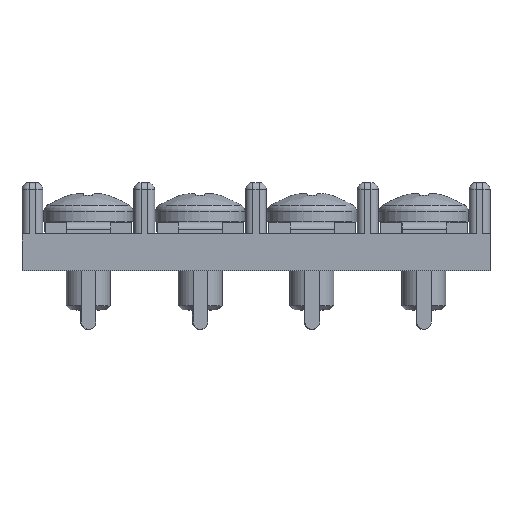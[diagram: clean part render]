
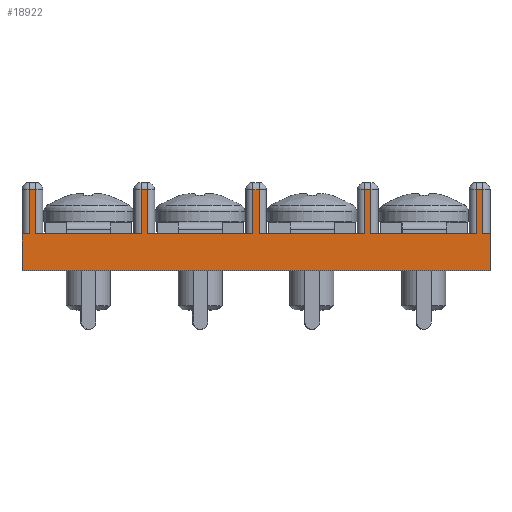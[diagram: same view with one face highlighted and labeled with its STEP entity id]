
A CAD part, top view. The second image highlights one B-rep face of the part: STEP entity #18922.
In plain terms, the highlighted planar face has unit normal (0, 0, 1).
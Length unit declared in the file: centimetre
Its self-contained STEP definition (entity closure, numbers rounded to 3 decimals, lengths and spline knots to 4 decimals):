
#941=PLANE('',#31524);
#1591=VECTOR('',#20011,1.);
#1594=VECTOR('',#20038,1.);
#1597=VECTOR('',#20047,1.);
#1605=VECTOR('',#20066,1.);
#1606=VECTOR('',#20068,1.);
#1714=VECTOR('',#20331,1.);
#1726=VECTOR('',#20362,1.);
#1728=VECTOR('',#20388,1.);
#1730=VECTOR('',#20396,1.);
#1865=VECTOR('',#20718,1.);
#1867=VECTOR('',#20744,1.);
#1869=VECTOR('',#20749,1.);
#1870=VECTOR('',#20750,1.);
#1871=VECTOR('',#20751,1.);
#1872=VECTOR('',#20752,1.);
#1873=VECTOR('',#20753,1.);
#1874=VECTOR('',#20754,1.);
#1875=VECTOR('',#20755,1.);
#1876=VECTOR('',#20756,1.);
#1877=VECTOR('',#20757,1.);
#1878=VECTOR('',#20758,1.);
#1879=VECTOR('',#20759,1.);
#1880=VECTOR('',#20760,1.);
#3695=LINE('',#23555,#1591);
#3698=LINE('',#23572,#1594);
#3701=LINE('',#23582,#1597);
#3709=LINE('',#23602,#1605);
#3710=LINE('',#23605,#1606);
#3818=LINE('',#23968,#1714);
#3830=LINE('',#24006,#1726);
#3832=LINE('',#24020,#1728);
#3834=LINE('',#24028,#1730);
#3969=LINE('',#24463,#1865);
#3971=LINE('',#24477,#1867);
#3973=LINE('',#24483,#1869);
#3974=LINE('',#24484,#1870);
#3975=LINE('',#24486,#1871);
#3976=LINE('',#24488,#1872);
#3977=LINE('',#24490,#1873);
#3978=LINE('',#24492,#1874);
#3979=LINE('',#24494,#1875);
#3980=LINE('',#24496,#1876);
#3981=LINE('',#24498,#1877);
#3982=LINE('',#24500,#1878);
#3983=LINE('',#24502,#1879);
#3984=LINE('',#24503,#1880);
#5801=VERTEX_POINT('',#23550);
#5803=VERTEX_POINT('',#23554);
#5806=VERTEX_POINT('',#23573);
#5809=VERTEX_POINT('',#23581);
#5815=VERTEX_POINT('',#23603);
#5816=VERTEX_POINT('',#23606);
#5925=VERTEX_POINT('',#23954);
#5932=VERTEX_POINT('',#23967);
#5946=VERTEX_POINT('',#24001);
#5948=VERTEX_POINT('',#24005);
#5949=VERTEX_POINT('',#24021);
#5951=VERTEX_POINT('',#24027);
#6091=VERTEX_POINT('',#24458);
#6093=VERTEX_POINT('',#24462);
#6094=VERTEX_POINT('',#24478);
#6096=VERTEX_POINT('',#24485);
#6097=VERTEX_POINT('',#24487);
#6098=VERTEX_POINT('',#24489);
#6099=VERTEX_POINT('',#24491);
#6100=VERTEX_POINT('',#24493);
#6101=VERTEX_POINT('',#24495);
#6102=VERTEX_POINT('',#24497);
#6103=VERTEX_POINT('',#24499);
#6104=VERTEX_POINT('',#24501);
#7889=EDGE_CURVE('',#5803,#5801,#3695,.T.);
#7898=EDGE_CURVE('',#5806,#5801,#3698,.T.);
#7903=EDGE_CURVE('',#5809,#5803,#3701,.T.);
#7913=EDGE_CURVE('',#5815,#5806,#3709,.T.);
#7915=EDGE_CURVE('',#5816,#5815,#3710,.T.);
#8078=EDGE_CURVE('',#5925,#5932,#3818,.T.);
#8098=EDGE_CURVE('',#5948,#5946,#3830,.T.);
#8106=EDGE_CURVE('',#5949,#5946,#3832,.T.);
#8110=EDGE_CURVE('',#5951,#5948,#3834,.T.);
#8308=EDGE_CURVE('',#6093,#6091,#3969,.T.);
#8316=EDGE_CURVE('',#6094,#6091,#3971,.T.);
#8319=EDGE_CURVE('',#5925,#6093,#3973,.T.);
#8320=EDGE_CURVE('',#5932,#6096,#3974,.T.);
#8321=EDGE_CURVE('',#6097,#6096,#3975,.T.);
#8322=EDGE_CURVE('',#6098,#6097,#3976,.T.);
#8323=EDGE_CURVE('',#6098,#6099,#3977,.T.);
#8324=EDGE_CURVE('',#6100,#6099,#3978,.T.);
#8325=EDGE_CURVE('',#6100,#5816,#3979,.T.);
#8326=EDGE_CURVE('',#5809,#6101,#3709,.T.);
#8327=EDGE_CURVE('',#6101,#6102,#3980,.T.);
#8328=EDGE_CURVE('',#6103,#6102,#3981,.T.);
#8329=EDGE_CURVE('',#6104,#6103,#3982,.T.);
#8330=EDGE_CURVE('',#6104,#5949,#3983,.T.);
#8331=EDGE_CURVE('',#5951,#6094,#3984,.T.);
#11474=ORIENTED_EDGE('',*,*,#8308,.F.);
#11475=ORIENTED_EDGE('',*,*,#8319,.F.);
#11476=ORIENTED_EDGE('',*,*,#8078,.T.);
#11477=ORIENTED_EDGE('',*,*,#8320,.T.);
#11478=ORIENTED_EDGE('',*,*,#8321,.F.);
#11479=ORIENTED_EDGE('',*,*,#8322,.F.);
#11480=ORIENTED_EDGE('',*,*,#8323,.T.);
#11481=ORIENTED_EDGE('',*,*,#8324,.F.);
#11482=ORIENTED_EDGE('',*,*,#8325,.T.);
#11483=ORIENTED_EDGE('',*,*,#7915,.T.);
#11484=ORIENTED_EDGE('',*,*,#7913,.T.);
#11485=ORIENTED_EDGE('',*,*,#7898,.T.);
#11486=ORIENTED_EDGE('',*,*,#7889,.F.);
#11487=ORIENTED_EDGE('',*,*,#7903,.F.);
#11488=ORIENTED_EDGE('',*,*,#8326,.T.);
#11489=ORIENTED_EDGE('',*,*,#8327,.T.);
#11490=ORIENTED_EDGE('',*,*,#8328,.F.);
#11491=ORIENTED_EDGE('',*,*,#8329,.F.);
#11492=ORIENTED_EDGE('',*,*,#8330,.T.);
#11493=ORIENTED_EDGE('',*,*,#8106,.T.);
#11494=ORIENTED_EDGE('',*,*,#8098,.F.);
#11495=ORIENTED_EDGE('',*,*,#8110,.F.);
#11496=ORIENTED_EDGE('',*,*,#8331,.T.);
#11497=ORIENTED_EDGE('',*,*,#8316,.T.);
#16522=EDGE_LOOP('',(#11474,#11475,#11476,#11477,#11478,#11479,#11480,#11481,
#11482,#11483,#11484,#11485,#11486,#11487,#11488,#11489,#11490,#11491,#11492,
#11493,#11494,#11495,#11496,#11497));
#17732=FACE_BOUND('',#16522,.T.);
#18922=ADVANCED_FACE('',(#17732),#941,.T.);
#20011=DIRECTION('',(1.,0.,0.));
#20038=DIRECTION('',(0.,1.,0.));
#20047=DIRECTION('',(0.,1.,0.));
#20066=DIRECTION('',(-1.,0.,0.));
#20068=DIRECTION('',(0.,1.,0.));
#20331=DIRECTION('',(-1.,0.,0.));
#20362=DIRECTION('',(1.,0.,0.));
#20388=DIRECTION('',(0.,1.,0.));
#20396=DIRECTION('',(0.,1.,0.));
#20718=DIRECTION('',(1.,0.,0.));
#20744=DIRECTION('',(0.,1.,0.));
#20748=DIRECTION('',(0.,0.,1.));
#20749=DIRECTION('',(0.,1.,0.));
#20750=DIRECTION('',(0.,1.,0.));
#20751=DIRECTION('',(1.,0.,0.));
#20752=DIRECTION('',(0.,1.,0.));
#20753=DIRECTION('',(-1.,0.,0.));
#20754=DIRECTION('',(0.,1.,0.));
#20755=DIRECTION('',(1.,0.,0.));
#20756=DIRECTION('',(0.,1.,0.));
#20757=DIRECTION('',(1.,0.,0.));
#20758=DIRECTION('',(0.,1.,0.));
#20759=DIRECTION('',(-1.,0.,0.));
#20760=DIRECTION('',(-1.,0.,0.));
#23550=CARTESIAN_POINT('',(2.378,0.55,0.45));
#23554=CARTESIAN_POINT('',(2.336,0.55,0.45));
#23555=CARTESIAN_POINT('',(2.357,0.55,0.45));
#23572=CARTESIAN_POINT('',(2.378,0.25,0.45));
#23573=CARTESIAN_POINT('',(2.378,0.25,0.45));
#23581=CARTESIAN_POINT('',(2.336,0.25,0.45));
#23582=CARTESIAN_POINT('',(2.336,0.25,0.45));
#23602=CARTESIAN_POINT('',(2.286,0.25,0.45));
#23603=CARTESIAN_POINT('',(2.428,0.25,0.45));
#23605=CARTESIAN_POINT('',(2.428,0.,0.45));
#23606=CARTESIAN_POINT('',(2.428,0.,0.45));
#23954=CARTESIAN_POINT('',(0.05,0.25,0.45));
#23967=CARTESIAN_POINT('',(-0.67,0.25,0.45));
#23968=CARTESIAN_POINT('',(0.,0.25,0.45));
#24001=CARTESIAN_POINT('',(0.854,0.55,0.45));
#24005=CARTESIAN_POINT('',(0.812,0.55,0.45));
#24006=CARTESIAN_POINT('',(0.988,0.55,0.45));
#24020=CARTESIAN_POINT('',(0.854,0.25,0.45));
#24021=CARTESIAN_POINT('',(0.854,0.25,0.45));
#24027=CARTESIAN_POINT('',(0.812,0.25,0.45));
#24028=CARTESIAN_POINT('',(0.812,0.25,0.45));
#24458=CARTESIAN_POINT('',(0.092,0.55,0.45));
#24462=CARTESIAN_POINT('',(0.05,0.55,0.45));
#24463=CARTESIAN_POINT('',(0.226,0.55,0.45));
#24477=CARTESIAN_POINT('',(0.092,0.25,0.45));
#24478=CARTESIAN_POINT('',(0.092,0.25,0.45));
#24482=CARTESIAN_POINT('',(0.381,0.,0.45));
#24483=CARTESIAN_POINT('',(0.05,0.25,0.45));
#24484=CARTESIAN_POINT('',(-0.67,0.25,0.45));
#24485=CARTESIAN_POINT('',(-0.67,0.55,0.45));
#24486=CARTESIAN_POINT('',(-0.536,0.55,0.45));
#24487=CARTESIAN_POINT('',(-0.712,0.55,0.45));
#24488=CARTESIAN_POINT('',(-0.712,0.25,0.45));
#24489=CARTESIAN_POINT('',(-0.712,0.25,0.45));
#24490=CARTESIAN_POINT('',(-0.762,0.25,0.45));
#24491=CARTESIAN_POINT('',(-0.762,0.25,0.45));
#24492=CARTESIAN_POINT('',(-0.762,0.,0.45));
#24493=CARTESIAN_POINT('',(-0.762,0.,0.45));
#24494=CARTESIAN_POINT('',(0.,0.,0.45));
#24495=CARTESIAN_POINT('',(1.616,0.25,0.45));
#24496=CARTESIAN_POINT('',(1.616,0.25,0.45));
#24497=CARTESIAN_POINT('',(1.616,0.55,0.45));
#24498=CARTESIAN_POINT('',(1.75,0.55,0.45));
#24499=CARTESIAN_POINT('',(1.574,0.55,0.45));
#24500=CARTESIAN_POINT('',(1.574,0.25,0.45));
#24501=CARTESIAN_POINT('',(1.574,0.25,0.45));
#24502=CARTESIAN_POINT('',(1.524,0.25,0.45));
#24503=CARTESIAN_POINT('',(0.762,0.25,0.45));
#31524=AXIS2_PLACEMENT_3D('',#24482,#20748,$);
